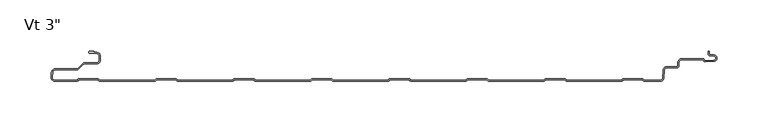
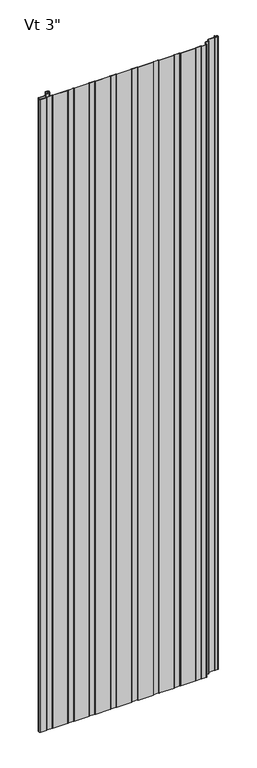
"""IFC4 building model written with IfcOpenShell, lengths in millimetres: plate geometry."""

from ifc_helpers import new_model, si_unit, point, frame_2d, origin, origin_with_axes, place, context, project, spatial, polyline, circle_curve, trimmed, segment, composite_curve, outline, extrude, source, transform, mapped, element, save


def plate_9586a886(model_context):
    return source(origin(), model_context, "Body", "SweptSolid", [
        extrude(outline(composite_curve([segment(polyline([(-315.4415934, -76.1997378), (-337.2521176, -76.1997378)]), True, "CONTINUOUS"), segment(trimmed(circle_curve(frame_2d((-337.2521176, -72.6294985)), 3.5702393), [point((-337.2521176, -76.1997378))], [point((-340.808762, -72.3182281))], False, "CARTESIAN"), True, "CONTINUOUS"), segment(polyline([(-340.808762, -72.3182281), (-340.3690675, -67.2941815)]), True, "CONTINUOUS"), segment(trimmed(circle_curve(frame_2d((-336.7198392, -67.9049826)), 3.6999926), [point((-340.3690675, -67.2941815))], [point((-336.7198392, -64.20499))], False, "CARTESIAN"), True, "CONTINUOUS"), segment(polyline([(-336.7198392, -64.20499), (-315.5773997, -64.20499)]), True, "CONTINUOUS"), segment(trimmed(circle_curve(frame_2d((-315.5773997, -62.9049926)), 1.2999974), [point((-315.5773997, -64.20499))], [point((-314.6581627, -63.8242296))], True, "CARTESIAN"), True, "CONTINUOUS"), segment(polyline([(-314.6581627, -63.8242296), (-309.8297453, -58.9958121)]), True, "CONTINUOUS"), segment(trimmed(circle_curve(frame_2d((-307.9205608, -60.9049966)), 2.6999946), [point((-309.8297453, -58.9958121))], [point((-307.9205608, -58.205002))], False, "CARTESIAN"), True, "CONTINUOUS"), segment(polyline([(-307.9205608, -58.205002), (-296.1096717, -58.205002)]), True, "CONTINUOUS"), segment(trimmed(circle_curve(frame_2d((-296.1096717, -55.8550067)), 2.3499953), [point((-296.1096717, -58.205002))], [point((-293.7596764, -55.8550067))], True, "CARTESIAN"), True, "CONTINUOUS"), segment(polyline([(-293.7596764, -55.8550067), (-293.7596764, -51.4550155)]), True, "CONTINUOUS"), segment(trimmed(circle_curve(frame_2d((-296.1096717, -51.4550155)), 2.3499953), [point((-293.7596764, -51.4550155))], [point((-296.1096717, -49.1050202))], True, "CARTESIAN"), True, "CONTINUOUS"), segment(polyline([(-296.1096717, -49.1050202), (-302.6289779, -49.1050202)]), True, "CONTINUOUS"), segment(trimmed(circle_curve(frame_2d((-302.5686908, -47.906538)), 1.1999976), [point((-302.6289779, -49.1050202))], [point((-303.7683001, -47.8760161))], False, "CARTESIAN"), True, "CONTINUOUS"), segment(trimmed(circle_curve(frame_2d((-302.5686908, -47.906538)), 1.1999976), [point((-303.7683001, -47.8760161))], [point((-302.5671761, -46.7065413))], False, "CARTESIAN"), True, "CONTINUOUS"), segment(polyline([(-302.5671761, -46.7065413), (-298.8087827, -46.7065413), (-298.8087827, -48.1050202), (-296.1096717, -48.1050202)]), True, "CONTINUOUS"), segment(trimmed(circle_curve(frame_2d((-296.1096717, -51.4550155)), 3.3499953), [point((-296.1096717, -48.1050202))], [point((-292.7596764, -51.4550155))], False, "CARTESIAN"), True, "CONTINUOUS"), segment(polyline([(-292.7596764, -51.4550155), (-292.7596764, -55.8550067)]), True, "CONTINUOUS"), segment(trimmed(circle_curve(frame_2d((-296.1096717, -55.8550067)), 3.3499953), [point((-292.7596764, -55.8550067))], [point((-296.1096717, -59.205002))], False, "CARTESIAN"), True, "CONTINUOUS"), segment(polyline([(-296.1096717, -59.205002), (-307.9205608, -59.205002)]), True, "CONTINUOUS"), segment(trimmed(circle_curve(frame_2d((-307.9205608, -60.9049966)), 1.6999946), [point((-307.9205608, -59.205002))], [point((-309.1226385, -59.7029189))], True, "CARTESIAN"), True, "CONTINUOUS"), segment(polyline([(-309.1226385, -59.7029189), (-314.6247096, -65.20499), (-336.7198392, -65.20499)]), True, "CONTINUOUS"), segment(trimmed(circle_curve(frame_2d((-336.7198392, -67.9049826)), 2.6999926), [point((-336.7198392, -65.20499))], [point((-339.3765709, -67.423592))], True, "CARTESIAN"), True, "CONTINUOUS"), segment(polyline([(-339.3765709, -67.423592), (-339.8125699, -72.4054129)]), True, "CONTINUOUS"), segment(trimmed(circle_curve(frame_2d((-337.2521176, -72.6294985)), 2.5702393), [point((-339.8125699, -72.4054129))], [point((-337.2521176, -75.1997378))], True, "CARTESIAN"), True, "CONTINUOUS"), segment(polyline([(-337.2521176, -75.1997378), (-315.2790962, -75.1997378), (-314.0791277, -73.9997693), (-294.3597151, -73.9997693), (-293.1594844, -75.2), (-239.0793527, -75.2), (-237.879122, -73.9997693), (-218.1597095, -73.9997693), (-216.9594787, -75.2), (-162.879347, -75.2), (-161.6791163, -73.9997693), (-141.9597038, -73.9997693), (-140.7594731, -75.2), (-86.6793413, -75.2), (-85.4791106, -73.9997693), (-65.7596981, -73.9997693), (-64.5594674, -75.2), (-10.4793356, -75.2), (-9.2791049, -73.9997693), (10.4403076, -73.9997693), (11.6405383, -75.2), (65.7206701, -75.2), (66.9209008, -73.9997693), (86.6403133, -73.9997693), (87.840544, -75.2), (141.9206758, -75.2), (143.1209065, -73.9997693), (162.840319, -73.9997693), (164.0405497, -75.2), (218.1206815, -75.2), (219.3209122, -73.9997693), (239.0403247, -73.9997693), (240.2396538, -75.1990984), (256.3384359, -75.1990984)]), True, "CONTINUOUS"), segment(trimmed(circle_curve(frame_2d((256.3384359, -73.2491043)), 1.9499941), [point((256.3384359, -75.1990984))], [point((258.2810097, -73.4190575))], True, "CARTESIAN"), True, "CONTINUOUS"), segment(polyline([(258.2810097, -73.4190575), (259.0215397, -64.954761)]), True, "CONTINUOUS"), segment(trimmed(circle_curve(frame_2d((262.0400056, -65.2188426)), 3.0299959), [point((259.0215397, -64.954761))], [point((262.1657441, -62.1914567))], False, "CARTESIAN"), True, "CONTINUOUS"), segment(polyline([(262.1657441, -62.1914567), (272.2595941, -62.1914567)]), True, "CONTINUOUS"), segment(trimmed(circle_curve(frame_2d((272.2595941, -61.2423033)), 0.9491534), [point((272.2595941, -62.1914567))], [point((273.2087475, -61.2423033))], True, "CARTESIAN"), True, "CONTINUOUS"), segment(polyline([(273.2087475, -61.2423033), (273.2087475, -58.1009036)]), True, "CONTINUOUS"), segment(trimmed(circle_curve(frame_2d((277.2087415, -58.1009036)), 3.999994), [point((273.2087475, -58.1009036))], [point((277.2087415, -54.1009096))], False, "CARTESIAN"), True, "CONTINUOUS"), segment(polyline([(277.2087415, -54.1009096), (298.3895515, -54.1009096), (299.5334028, -56.0821181), (308.506811, -55.7268578)]), True, "CONTINUOUS"), segment(trimmed(circle_curve(frame_2d((308.4236622, -53.6266291)), 2.1018739), [point((308.506811, -55.7268578))], [point((308.5037148, -51.5262802))], True, "CARTESIAN"), True, "CONTINUOUS"), segment(polyline([(308.5037148, -51.5262802), (304.4977997, -51.2818653)]), True, "CONTINUOUS"), segment(trimmed(circle_curve(frame_2d((304.6099653, -49.4434917)), 1.8417922), [point((304.4977997, -51.2818653))], [point((302.7686884, -49.4870527))], False, "CARTESIAN"), True, "CONTINUOUS"), segment(polyline([(302.7686884, -49.4870527), (302.7686884, -46.7025061), (303.7686884, -46.7025061), (303.7686884, -49.4729389)]), True, "CONTINUOUS"), segment(trimmed(circle_curve(frame_2d((304.6099653, -49.4434917)), 0.8417922), [point((303.7686884, -49.4729389))], [point((304.5587, -50.2837214))], True, "CARTESIAN"), True, "CONTINUOUS"), segment(polyline([(304.5587, -50.2837214), (308.5543204, -50.5275082)]), True, "CONTINUOUS"), segment(trimmed(circle_curve(frame_2d((308.4236622, -53.6266291)), 3.1018739), [point((308.5543204, -50.5275082))], [point((308.5463704, -56.726075))], False, "CARTESIAN"), True, "CONTINUOUS"), segment(polyline([(308.5463704, -56.726075), (299.8344401, -57.0709833)]), True, "CONTINUOUS"), segment(trimmed(circle_curve(frame_2d((299.787224, -55.6217552)), 1.4499971), [point((299.8344401, -57.0709833))], [point((298.5314897, -56.3467537))], False, "CARTESIAN"), True, "CONTINUOUS"), segment(polyline([(298.5314897, -56.3467537), (297.8122013, -55.1009096), (277.2087415, -55.1009096)]), True, "CONTINUOUS"), segment(trimmed(circle_curve(frame_2d((277.2087415, -58.1009036)), 2.999994), [point((277.2087415, -55.1009096))], [point((274.2087475, -58.1009036))], True, "CARTESIAN"), True, "CONTINUOUS"), segment(polyline([(274.2087475, -58.1009036), (274.2087475, -61.2423033)]), True, "CONTINUOUS"), segment(trimmed(circle_curve(frame_2d((272.2595941, -61.2423033)), 1.9491534), [point((274.2087475, -61.2423033))], [point((272.2595941, -63.1914567))], False, "CARTESIAN"), True, "CONTINUOUS"), segment(polyline([(272.2595941, -63.1914567), (262.1429135, -63.1914567)]), True, "CONTINUOUS"), segment(trimmed(circle_curve(frame_2d((262.0400056, -65.2188426)), 2.0299959), [point((262.1429135, -63.1914567))], [point((260.0177344, -65.0419168))], True, "CARTESIAN"), True, "CONTINUOUS"), segment(polyline([(260.0177344, -65.0419168), (259.2772044, -73.5062132)]), True, "CONTINUOUS"), segment(trimmed(circle_curve(frame_2d((256.3384359, -73.2491043)), 2.9499941), [point((259.2772044, -73.5062132))], [point((256.3384359, -76.1990984))], False, "CARTESIAN"), True, "CONTINUOUS"), segment(polyline([(256.3384359, -76.1990984), (240.4528361, -76.1990984)]), True, "CONTINUOUS"), segment(trimmed(circle_curve(frame_2d((240.4020209, -74.8000237)), 1.3999972), [point((240.4528361, -76.1990984))], [point((239.3579701, -75.7327349))], False, "CARTESIAN"), True, "CONTINUOUS"), segment(polyline([(239.3579701, -75.7327349), (238.6250045, -74.9997693), (219.7343353, -74.9997693), (219.0013906, -75.732714)]), True, "CONTINUOUS"), segment(trimmed(circle_curve(frame_2d((217.9573398, -74.8000028)), 1.3999972), [point((219.0013906, -75.732714))], [point((217.9573398, -76.2))], False, "CARTESIAN"), True, "CONTINUOUS"), segment(polyline([(217.9573398, -76.2), (164.2098266, -76.2)]), True, "CONTINUOUS"), segment(trimmed(circle_curve(frame_2d((164.2021733, -74.8000237)), 1.3999972), [point((164.2098266, -76.2))], [point((163.1581225, -75.7327349))], False, "CARTESIAN"), True, "CONTINUOUS"), segment(polyline([(163.1581225, -75.7327349), (162.4251569, -74.9997693), (143.5344877, -74.9997693), (142.801543, -75.732714)]), True, "CONTINUOUS"), segment(trimmed(circle_curve(frame_2d((141.7574922, -74.8000028)), 1.3999972), [point((142.801543, -75.732714))], [point((141.7574922, -76.2))], False, "CARTESIAN"), True, "CONTINUOUS"), segment(polyline([(141.7574922, -76.2), (88.009979, -76.2)]), True, "CONTINUOUS"), segment(trimmed(circle_curve(frame_2d((88.0023257, -74.8000237)), 1.3999972), [point((88.009979, -76.2))], [point((86.9582749, -75.7327349))], False, "CARTESIAN"), True, "CONTINUOUS"), segment(polyline([(86.9582749, -75.7327349), (86.2253093, -74.9997693), (67.3346401, -74.9997693), (66.6016954, -75.732714)]), True, "CONTINUOUS"), segment(trimmed(circle_curve(frame_2d((65.5576446, -74.8000028)), 1.3999972), [point((66.6016954, -75.732714))], [point((65.5576446, -76.2))], False, "CARTESIAN"), True, "CONTINUOUS"), segment(polyline([(65.5576446, -76.2), (11.8101314, -76.2)]), True, "CONTINUOUS"), segment(trimmed(circle_curve(frame_2d((11.8024781, -74.8000237)), 1.3999972), [point((11.8101314, -76.2))], [point((10.7584273, -75.7327349))], False, "CARTESIAN"), True, "CONTINUOUS"), segment(polyline([(10.7584273, -75.7327349), (10.0254617, -74.9997693), (-8.8652075, -74.9997693), (-9.5981522, -75.732714)]), True, "CONTINUOUS"), segment(trimmed(circle_curve(frame_2d((-10.642203, -74.8000028)), 1.3999972), [point((-9.5981522, -75.732714))], [point((-10.642203, -76.2))], False, "CARTESIAN"), True, "CONTINUOUS"), segment(polyline([(-10.642203, -76.2), (-64.3897162, -76.2)]), True, "CONTINUOUS"), segment(trimmed(circle_curve(frame_2d((-64.3973695, -74.8000237)), 1.3999972), [point((-64.3897162, -76.2))], [point((-65.4414203, -75.7327349))], False, "CARTESIAN"), True, "CONTINUOUS"), segment(polyline([(-65.4414203, -75.7327349), (-66.1743859, -74.9997693), (-85.0650551, -74.9997693), (-85.7979998, -75.732714)]), True, "CONTINUOUS"), segment(trimmed(circle_curve(frame_2d((-86.8420506, -74.8000028)), 1.3999972), [point((-85.7979998, -75.732714))], [point((-86.8420506, -76.2))], False, "CARTESIAN"), True, "CONTINUOUS"), segment(polyline([(-86.8420506, -76.2), (-140.5895638, -76.2)]), True, "CONTINUOUS"), segment(trimmed(circle_curve(frame_2d((-140.5972171, -74.8000237)), 1.3999972), [point((-140.5895638, -76.2))], [point((-141.6412679, -75.7327349))], False, "CARTESIAN"), True, "CONTINUOUS"), segment(polyline([(-141.6412679, -75.7327349), (-142.3742335, -74.9997693), (-161.2649027, -74.9997693), (-161.9978474, -75.732714)]), True, "CONTINUOUS"), segment(trimmed(circle_curve(frame_2d((-163.0418982, -74.8000028)), 1.3999972), [point((-161.9978474, -75.732714))], [point((-163.0418982, -76.2))], False, "CARTESIAN"), True, "CONTINUOUS"), segment(polyline([(-163.0418982, -76.2), (-216.7894114, -76.2)]), True, "CONTINUOUS"), segment(trimmed(circle_curve(frame_2d((-216.7970647, -74.8000237)), 1.3999972), [point((-216.7894114, -76.2))], [point((-217.8411155, -75.7327349))], False, "CARTESIAN"), True, "CONTINUOUS"), segment(polyline([(-217.8411155, -75.7327349), (-218.5740811, -74.9997693), (-237.4647503, -74.9997693), (-238.197695, -75.732714)]), True, "CONTINUOUS"), segment(trimmed(circle_curve(frame_2d((-239.2417458, -74.8000028)), 1.3999972), [point((-238.197695, -75.732714))], [point((-239.2417458, -76.2))], False, "CARTESIAN"), True, "CONTINUOUS"), segment(polyline([(-239.2417458, -76.2), (-292.989259, -76.2)]), True, "CONTINUOUS"), segment(trimmed(circle_curve(frame_2d((-292.9969123, -74.8000237)), 1.3999972), [point((-292.989259, -76.2))], [point((-294.0409631, -75.7327349))], False, "CARTESIAN"), True, "CONTINUOUS"), segment(polyline([(-294.0409631, -75.7327349), (-294.7739287, -74.9997693), (-313.6649141, -74.9997693), (-314.3976403, -75.7324955)]), True, "CONTINUOUS"), segment(trimmed(circle_curve(frame_2d((-315.4415934, -74.7998717)), 1.3998661), [point((-314.3976403, -75.7324955))], [point((-315.4415934, -76.1997378))], False, "CARTESIAN"), True, "CONTINUOUS")], self_intersect=False)), origin_with_axes(), (0.0, 0.0, 1.0), 2400.0),
    ])


if __name__ == "__main__":
    model = new_model("IFC4")
    model_context = context("Model", 3, world=origin())
    ifc_project = project(units=[si_unit("LENGTHUNIT", "METRE", prefix="MILLI")], contexts=[model_context])
    site = spatial("IfcSite", under=ifc_project)
    building = spatial("IfcBuilding", under=site)
    placement = place(None, origin())
    plate_shape = plate_9586a886(model_context)
    element("IfcPlate", 1, ObjectType="KIP-24-Karrier-KP-R19-CP-Vt-SL3-8in_SL : Vt 3\"", at=placement, inside=building, context=model_context, shape_type="MappedRepresentation", body=[
        mapped(plate_shape, transform((0.0, 0.0, 0.0), x_axis=(1.0, 0.0, 0.0), y_axis=(0.0, 1.0, 0.0), z_axis=(0.0, 0.0, 1.0))),
    ])
    save(model, "model.ifc")
